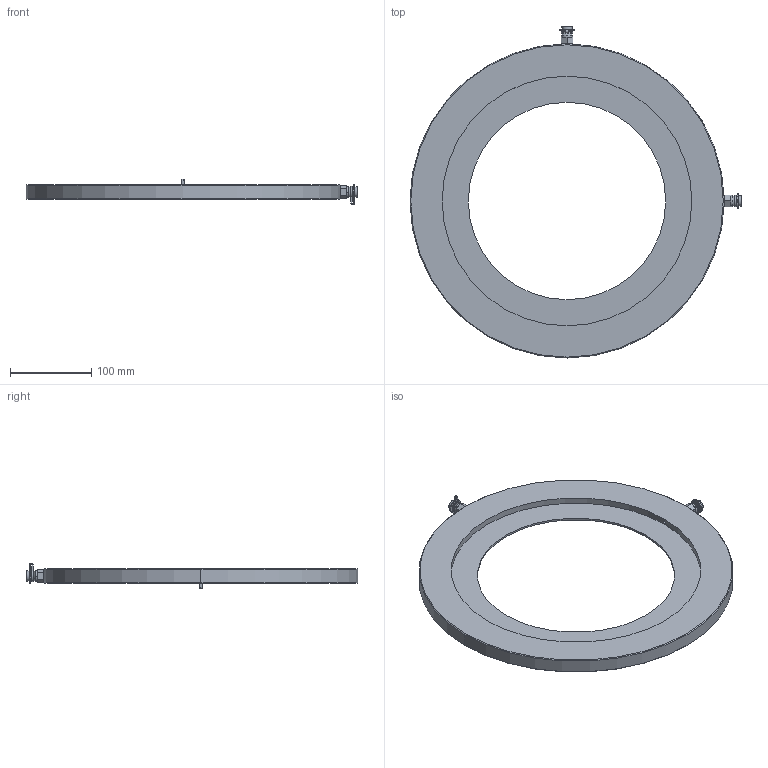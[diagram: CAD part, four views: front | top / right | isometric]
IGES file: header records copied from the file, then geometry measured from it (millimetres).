
Global section: file name: No Iges File Name specified; native system: AutoDesk Inventor R12.0; preprocessor: AutoDesk Inventor Iges Exporter R12.0; date: 20101223.142539; units: millimetre
Bounding box: 408.1 x 408.1 x 31.45 mm (x, y, z)
Volume: 842962.3 mm3; surface area: 182638.3 mm2
Topology: 1 solids, 1 shells, 125 faces, 290 edges, 186 vertices
Faces by surface type: plane 48, cylinder 29, bspline 18, cone 16, revolution 14
